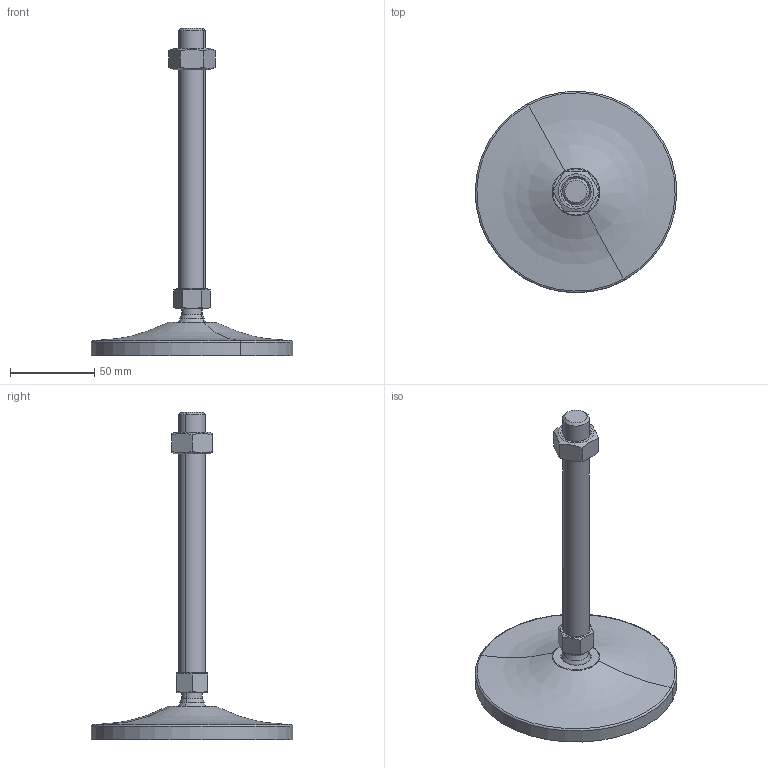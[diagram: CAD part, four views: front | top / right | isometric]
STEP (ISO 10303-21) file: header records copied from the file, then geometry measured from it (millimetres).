
FILE_DESCRIPTION(('CATIA V5 STEP Exchange'),'2;1');
FILE_NAME('C:\Users\ALI OZGUN\Desktop\alhan\saplama2\560121621.stp','2017-09-21T10:35:34+00:00',('none'),('none'),'CATIA Version 5 Release 21 GA (IN-10)','CATIA V5 STEP AP203','none');
FILE_SCHEMA(('CONFIG_CONTROL_DESIGN'));
Length unit declared in the file: millimetre
Products named in the file (1): 560121621
Bounding box: 119.97 x 119.97 x 195 mm (x, y, z)
Volume: 126303.9 mm3; surface area: 40370 mm2
Topology: 3 solids, 3 shells, 60 faces, 136 edges, 83 vertices
Faces by surface type: plane 20, cone 16, cylinder 14, torus 4, revolution 4, sphere 2
Entity records: 1857 total; most frequent: CARTESIAN_POINT 615, ORIENTED_EDGE 268, DIRECTION 185, EDGE_CURVE 134, AXIS2_PLACEMENT_3D 99, VERTEX_POINT 83, EDGE_LOOP 67, ADVANCED_FACE 60
